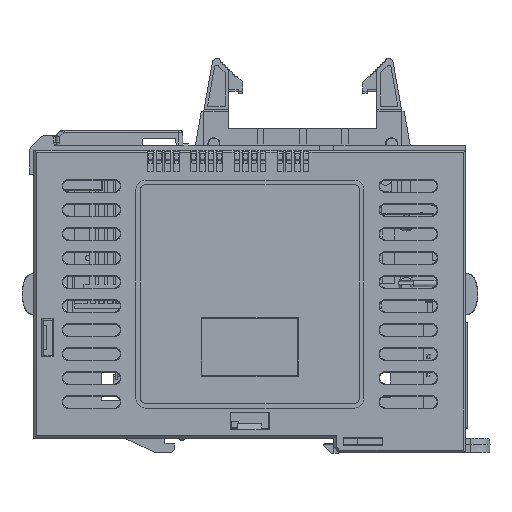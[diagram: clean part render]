
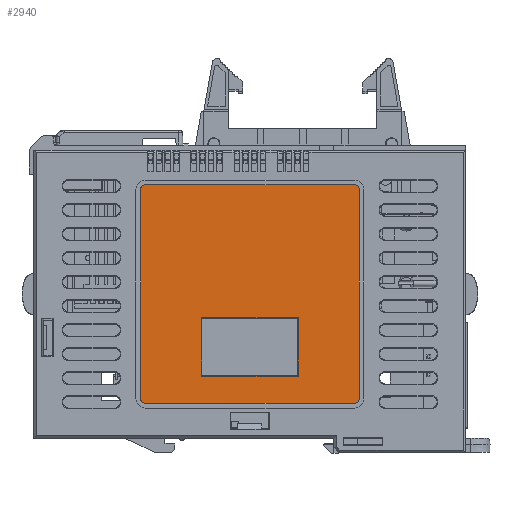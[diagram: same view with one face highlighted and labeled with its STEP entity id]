
A CAD part, left-side view. The second image highlights one B-rep face of the part: STEP entity #2940.
In plain terms, the highlighted planar face has unit normal (-1, 0, 0).
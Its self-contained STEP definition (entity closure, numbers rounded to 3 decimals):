
#2940 = ADVANCED_FACE ( 'NONE', ( #190625, #38580 ), #170309, .F. ) ;
#5547 = CIRCLE ( 'NONE', #44772, 1. ) ;
#9113 = CARTESIAN_POINT ( 'NONE',  ( -25.9, -22.75, -21.75 ) ) ;
#14239 = VECTOR ( 'NONE', #176883, 1000. ) ;
#14354 = LINE ( 'NONE', #113922, #152033 ) ;
#15108 = VERTEX_POINT ( 'NONE', #9113 ) ;
#16518 = DIRECTION ( 'NONE',  ( 0., -1., 0. ) ) ;
#18328 = CARTESIAN_POINT ( 'NONE',  ( -25.9, 10.1, -17.1 ) ) ;
#18727 = LINE ( 'NONE', #87616, #173740 ) ;
#22516 = EDGE_CURVE ( 'NONE', #15108, #126192, #18727, .T. ) ;
#22525 = VECTOR ( 'NONE', #59220, 1000. ) ;
#26096 = ORIENTED_EDGE ( 'NONE', *, *, #116745, .T. ) ;
#27221 = VERTEX_POINT ( 'NONE', #39751 ) ;
#27464 = DIRECTION ( 'NONE',  ( 0., -1., 0. ) ) ;
#34962 = ORIENTED_EDGE ( 'NONE', *, *, #43558, .T. ) ;
#38580 = FACE_BOUND ( 'NONE', #130271, .T. ) ;
#39751 = CARTESIAN_POINT ( 'NONE',  ( -25.9, 10.1, -4.9 ) ) ;
#40316 = EDGE_CURVE ( 'NONE', #90680, #45299, #137407, .T. ) ;
#43558 = EDGE_CURVE ( 'NONE', #231777, #15108, #44207, .T. ) ;
#44106 = CARTESIAN_POINT ( 'NONE',  ( -25.9, 21.75, 22.75 ) ) ;
#44207 = CIRCLE ( 'NONE', #116481, 1. ) ;
#44772 = AXIS2_PLACEMENT_3D ( 'NONE', #170334, #114942, #207166 ) ;
#45299 = VERTEX_POINT ( 'NONE', #230181 ) ;
#46198 = EDGE_CURVE ( 'NONE', #165711, #90680, #5547, .T. ) ;
#46210 = VECTOR ( 'NONE', #159365, 1000. ) ;
#49612 = AXIS2_PLACEMENT_3D ( 'NONE', #150799, #206099, #114675 ) ;
#51943 = LINE ( 'NONE', #103989, #46210 ) ;
#54225 = DIRECTION ( 'NONE',  ( 0., 0., -1. ) ) ;
#59220 = DIRECTION ( 'NONE',  ( 0., 0., -1. ) ) ;
#60317 = CARTESIAN_POINT ( 'NONE',  ( -25.9, 0., 0. ) ) ;
#61146 = CARTESIAN_POINT ( 'NONE',  ( -25.9, -10.1, -4.9 ) ) ;
#61475 = DIRECTION ( 'NONE',  ( 0., 1., 0. ) ) ;
#64858 = LINE ( 'NONE', #143866, #237100 ) ;
#65135 = ORIENTED_EDGE ( 'NONE', *, *, #40316, .T. ) ;
#76715 = ORIENTED_EDGE ( 'NONE', *, *, #84515, .T. ) ;
#81167 = ORIENTED_EDGE ( 'NONE', *, *, #46198, .T. ) ;
#84515 = EDGE_CURVE ( 'NONE', #93749, #165711, #14354, .T. ) ;
#84551 = VERTEX_POINT ( 'NONE', #176855 ) ;
#85377 = EDGE_CURVE ( 'NONE', #27221, #108720, #220297, .T. ) ;
#86048 = DIRECTION ( 'NONE',  ( 0., 0., 1. ) ) ;
#87616 = CARTESIAN_POINT ( 'NONE',  ( -25.9, -22.75, -22.75 ) ) ;
#90680 = VERTEX_POINT ( 'NONE', #217086 ) ;
#93749 = VERTEX_POINT ( 'NONE', #203767 ) ;
#94827 = DIRECTION ( 'NONE',  ( 0., 0., -1. ) ) ;
#97209 = DIRECTION ( 'NONE',  ( 1., 0., 0. ) ) ;
#103989 = CARTESIAN_POINT ( 'NONE',  ( -25.9, -10.1, -17.1 ) ) ;
#104584 = CARTESIAN_POINT ( 'NONE',  ( -25.9, -21.75, -22.75 ) ) ;
#106019 = AXIS2_PLACEMENT_3D ( 'NONE', #168645, #204643, #223958 ) ;
#106129 = ORIENTED_EDGE ( 'NONE', *, *, #226962, .T. ) ;
#108720 = VERTEX_POINT ( 'NONE', #18328 ) ;
#108822 = CARTESIAN_POINT ( 'NONE',  ( -25.9, -21.75, -21.75 ) ) ;
#111341 = AXIS2_PLACEMENT_3D ( 'NONE', #60317, #97209, #94827 ) ;
#113922 = CARTESIAN_POINT ( 'NONE',  ( -25.9, 22.75, 22.75 ) ) ;
#114675 = DIRECTION ( 'NONE',  ( 0., 0., -1. ) ) ;
#114942 = DIRECTION ( 'NONE',  ( -1., 0., 0. ) ) ;
#116481 = AXIS2_PLACEMENT_3D ( 'NONE', #108822, #237143, #54225 ) ;
#116745 = EDGE_CURVE ( 'NONE', #45299, #216239, #135065, .T. ) ;
#122010 = VERTEX_POINT ( 'NONE', #122447 ) ;
#122447 = CARTESIAN_POINT ( 'NONE',  ( -25.9, -10.1, -17.1 ) ) ;
#126192 = VERTEX_POINT ( 'NONE', #204826 ) ;
#130271 = EDGE_LOOP ( 'NONE', ( #202117, #139544, #216207, #200721 ) ) ;
#130686 = CARTESIAN_POINT ( 'NONE',  ( -25.9, 10.1, -4.9 ) ) ;
#130963 = VECTOR ( 'NONE', #27464, 1000. ) ;
#135065 = CIRCLE ( 'NONE', #106019, 1. ) ;
#137407 = LINE ( 'NONE', #176080, #14239 ) ;
#139544 = ORIENTED_EDGE ( 'NONE', *, *, #201671, .F. ) ;
#143866 = CARTESIAN_POINT ( 'NONE',  ( -25.9, 10.1, -17.1 ) ) ;
#149953 = ORIENTED_EDGE ( 'NONE', *, *, #150977, .T. ) ;
#150799 = CARTESIAN_POINT ( 'NONE',  ( -25.9, -21.75, 21.75 ) ) ;
#150977 = EDGE_CURVE ( 'NONE', #126192, #93749, #160616, .T. ) ;
#152033 = VECTOR ( 'NONE', #61475, 1000. ) ;
#159365 = DIRECTION ( 'NONE',  ( 0., 0., 1. ) ) ;
#160616 = CIRCLE ( 'NONE', #49612, 1. ) ;
#165711 = VERTEX_POINT ( 'NONE', #44106 ) ;
#168645 = CARTESIAN_POINT ( 'NONE',  ( -25.9, 21.75, -21.75 ) ) ;
#170178 = CARTESIAN_POINT ( 'NONE',  ( -25.9, 22.75, -22.75 ) ) ;
#170309 = PLANE ( 'NONE',  #111341 ) ;
#170334 = CARTESIAN_POINT ( 'NONE',  ( -25.9, 21.75, 21.75 ) ) ;
#173740 = VECTOR ( 'NONE', #86048, 1000. ) ;
#176080 = CARTESIAN_POINT ( 'NONE',  ( -25.9, 22.75, -22.75 ) ) ;
#176855 = CARTESIAN_POINT ( 'NONE',  ( -25.9, -10.1, -4.9 ) ) ;
#176883 = DIRECTION ( 'NONE',  ( 0., 0., -1. ) ) ;
#187907 = DIRECTION ( 'NONE',  ( 0., 1., 0. ) ) ;
#190625 = FACE_OUTER_BOUND ( 'NONE', #202195, .T. ) ;
#196244 = EDGE_CURVE ( 'NONE', #108720, #122010, #64858, .T. ) ;
#200721 = ORIENTED_EDGE ( 'NONE', *, *, #196244, .F. ) ;
#200995 = CARTESIAN_POINT ( 'NONE',  ( -25.9, 21.75, -22.75 ) ) ;
#201671 = EDGE_CURVE ( 'NONE', #84551, #27221, #228069, .T. ) ;
#202117 = ORIENTED_EDGE ( 'NONE', *, *, #85377, .F. ) ;
#202195 = EDGE_LOOP ( 'NONE', ( #106129, #34962, #220814, #149953, #76715, #81167, #65135, #26096 ) ) ;
#203767 = CARTESIAN_POINT ( 'NONE',  ( -25.9, -21.75, 22.75 ) ) ;
#204643 = DIRECTION ( 'NONE',  ( -1., 0., 0. ) ) ;
#204826 = CARTESIAN_POINT ( 'NONE',  ( -25.9, -22.75, 21.75 ) ) ;
#206099 = DIRECTION ( 'NONE',  ( -1., 0., 0. ) ) ;
#207166 = DIRECTION ( 'NONE',  ( 0., 0., -1. ) ) ;
#207957 = VECTOR ( 'NONE', #187907, 1000. ) ;
#216207 = ORIENTED_EDGE ( 'NONE', *, *, #229500, .F. ) ;
#216239 = VERTEX_POINT ( 'NONE', #200995 ) ;
#217086 = CARTESIAN_POINT ( 'NONE',  ( -25.9, 22.75, 21.75 ) ) ;
#220297 = LINE ( 'NONE', #130686, #22525 ) ;
#220814 = ORIENTED_EDGE ( 'NONE', *, *, #22516, .T. ) ;
#223958 = DIRECTION ( 'NONE',  ( 0., 0., -1. ) ) ;
#226962 = EDGE_CURVE ( 'NONE', #216239, #231777, #228615, .T. ) ;
#228069 = LINE ( 'NONE', #61146, #207957 ) ;
#228615 = LINE ( 'NONE', #170178, #130963 ) ;
#229500 = EDGE_CURVE ( 'NONE', #122010, #84551, #51943, .T. ) ;
#230181 = CARTESIAN_POINT ( 'NONE',  ( -25.9, 22.75, -21.75 ) ) ;
#231777 = VERTEX_POINT ( 'NONE', #104584 ) ;
#237100 = VECTOR ( 'NONE', #16518, 1000. ) ;
#237143 = DIRECTION ( 'NONE',  ( -1., 0., 0. ) ) ;
